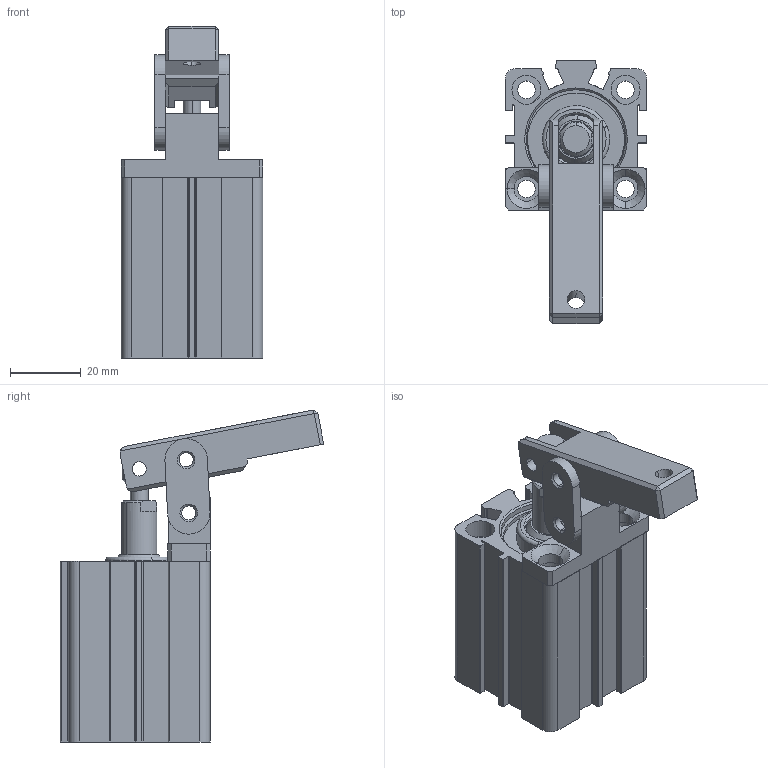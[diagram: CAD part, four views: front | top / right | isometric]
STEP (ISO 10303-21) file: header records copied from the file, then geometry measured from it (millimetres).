
FILE_DESCRIPTION (( 'STEP AP214' ), '1' );
FILE_NAME ('MSA_25.STEP', '2018-12-10T08:41:45', ( '' ), ( '' ), 'SwSTEP 2.0', 'SolidWorks 2018', '' );
FILE_SCHEMA (( 'AUTOMOTIVE_DESIGN' ));
Length unit declared in the file: millimetre
Products named in the file (14): SDA25ONKAPAK; SDA25X20BORU; SDA25ARKAKAPAK; MSA25_KLEMP3; K54-18X25X2_1; 25_KE荅 YATAGI_MANYETIK; MSA25_KLEMP1; MSA25_KLEMP2; MSA25_KLEMP4; 25X20 M尳; MSA_25; c-type retaining ring_internal_ks_KS 1336 I - 30; SDA25X20; K52-10
Assembly tree (15 placements, depth 3):
  MSA_25
    SDA25X20
      SDA25X20BORU
      SDA25ARKAKAPAK
      SDA25ONKAPAK
      K52-10
      25_KE荅 YATAGI_MANYETIK
      K54-18X25X2_1
      25X20 M尳
      c-type retaining ring_internal_ks_KS 1336 I - 30  x2
    MSA25_KLEMP2
    MSA25_KLEMP3  x2
    MSA25_KLEMP4
    MSA25_KLEMP1
Bounding box: 40 x 74.41 x 93.77 mm (x, y, z)
Volume: 70907.3 mm3; surface area: 41289.3 mm2
Topology: 14 solids, 14 shells, 558 faces, 1377 edges, 880 vertices
Faces by surface type: cylinder 258, plane 171, cone 111, torus 12, bspline 6
Entity records: 16404 total; most frequent: DIRECTION 2914, CARTESIAN_POINT 2904, ORIENTED_EDGE 2538, EDGE_CURVE 1269, AXIS2_PLACEMENT_3D 1154, VERTEX_POINT 812, CIRCLE 625, VECTOR 606
